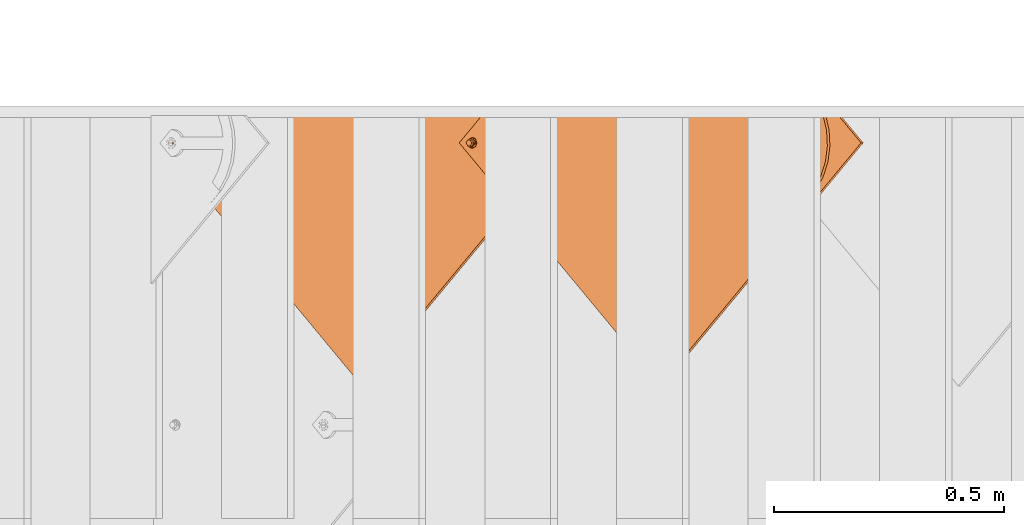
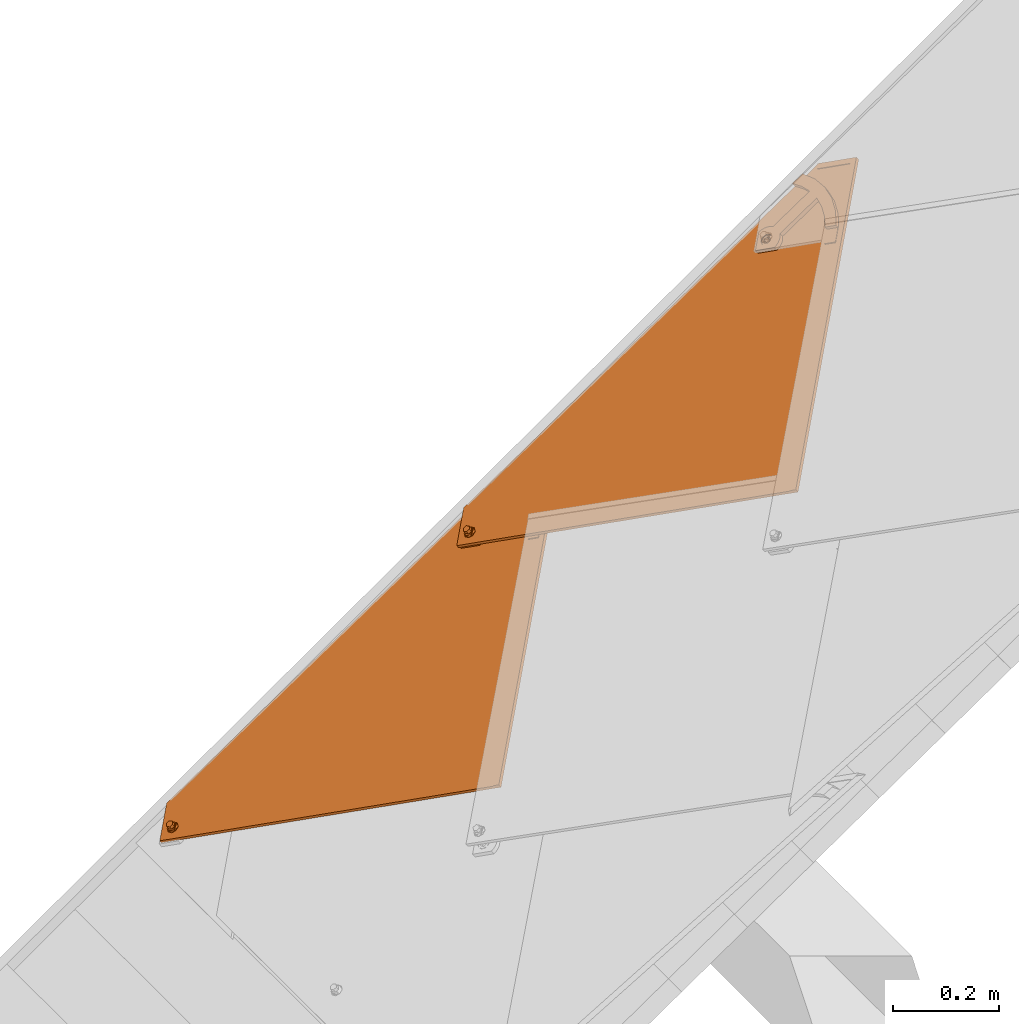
# One storey, part 90 of 151: 2 proxies.
"""IFC2X3 building model written with IfcOpenShell, lengths in millimetres."""

from ifc_helpers import new_model, entity, si_unit, converted_unit, derived_unit, direction, frame, origin, place, context, subcontext, project, spatial, faceted_brep, source, transform, mapped, material, material_list, type_object, type_shapes, element, save


model = new_model("IFC2X3")

# Units and contexts
model_context = context("Model", 3, precision=0.01, world=origin(), true_north=direction((6.12303176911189e-17, 1.0)))
body_context = subcontext(model_context, "Body", "Model", "MODEL_VIEW")
ifc_project = project(units=[si_unit("LENGTHUNIT", "METRE", prefix="MILLI"), si_unit("AREAUNIT", "SQUARE_METRE"), si_unit("VOLUMEUNIT", "CUBIC_METRE"), converted_unit("PLANEANGLEUNIT", "DEGREE", entity("IfcRatioMeasure", 0.0174532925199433), si_unit("PLANEANGLEUNIT", "RADIAN"), dimensions=[0, 0, 0, 0, 0, 0, 0]), si_unit("MASSUNIT", "GRAM", prefix="KILO"), derived_unit("MASSDENSITYUNIT", [(si_unit("MASSUNIT", "GRAM", prefix="KILO"), 1), (si_unit("LENGTHUNIT", "METRE"), -3)]), si_unit("TIMEUNIT", "SECOND"), si_unit("FREQUENCYUNIT", "HERTZ"), si_unit("THERMODYNAMICTEMPERATUREUNIT", "DEGREE_CELSIUS"), derived_unit("THERMALTRANSMITTANCEUNIT", [(si_unit("MASSUNIT", "GRAM", prefix="KILO"), 1), (si_unit("THERMODYNAMICTEMPERATUREUNIT", "KELVIN"), -1), (si_unit("TIMEUNIT", "SECOND"), -3)]), derived_unit("VOLUMETRICFLOWRATEUNIT", [(si_unit("LENGTHUNIT", "METRE"), 3), (si_unit("TIMEUNIT", "SECOND"), -1)]), si_unit("ELECTRICCURRENTUNIT", "AMPERE"), si_unit("ELECTRICVOLTAGEUNIT", "VOLT"), si_unit("POWERUNIT", "WATT"), si_unit("FORCEUNIT", "NEWTON", prefix="KILO"), si_unit("ILLUMINANCEUNIT", "LUX"), si_unit("LUMINOUSFLUXUNIT", "LUMEN"), si_unit("LUMINOUSINTENSITYUNIT", "CANDELA"), derived_unit("USERDEFINED", [(si_unit("MASSUNIT", "GRAM", prefix="KILO"), -1), (si_unit("LENGTHUNIT", "METRE"), -2), (si_unit("TIMEUNIT", "SECOND"), 3), (si_unit("LUMINOUSFLUXUNIT", "LUMEN"), 1)]), derived_unit("LINEARVELOCITYUNIT", [(si_unit("LENGTHUNIT", "METRE"), 1), (si_unit("TIMEUNIT", "SECOND"), -1)]), si_unit("PRESSUREUNIT", "PASCAL"), derived_unit("USERDEFINED", [(si_unit("LENGTHUNIT", "METRE"), -2), (si_unit("MASSUNIT", "GRAM", prefix="KILO"), 1), (si_unit("TIMEUNIT", "SECOND"), -2)])], contexts=[model_context])

# Site, building, storey
site_placement = place(None, origin())
site = spatial("IfcSite", under=ifc_project, at=site_placement, Name="Default", CompositionType="ELEMENT")
building_placement = place(site_placement, origin())
building = spatial("IfcBuilding", under=site, at=building_placement, CompositionType="ELEMENT")
storey_placement = place(building_placement, origin())
storey = spatial("IfcBuildingStorey", under=building, at=storey_placement, Name="Level 1", CompositionType="ELEMENT", Elevation=0.0)

# Proxies
ifc_material_1 = material(Name="Rubber - Sunstyle - Black")
ifc_material_2 = material(Name="Glass - Sunstyle - Tainted Black")
ifc_material_list_1 = material_list([ifc_material_1, ifc_material_2])
ifc_material_list_2 = material_list([ifc_material_1, ifc_material_2])
building_element_proxy_type = type_object("IfcBuildingElementProxyType", Name="Shingle Left - Black", PredefinedType="NOTDEFINED", material=ifc_material_list_2)
shared_shape = source(origin(), body_context, "Body", "Brep", [
    faceted_brep([(0.0, -484.792260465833, 4.00636906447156), (-5.77420283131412, -488.125530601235, 4.06219304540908), (-5.77420283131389, -487.757221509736, 26.0540623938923), (0.0, -484.423951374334, 25.9982384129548), (-5.77420283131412, -494.792070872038, 4.17384100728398), (-5.7742028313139, -494.42376178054, 26.1657103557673), (0.0, -498.12534100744, 4.22966498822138), (0.0, -497.757031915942, 26.2215343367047), (5.77420283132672, -494.792070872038, 4.17384100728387), (5.77420283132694, -494.42376178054, 26.1657103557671), (5.77420283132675, -488.125530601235, 4.06219304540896), (5.77420283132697, -487.757221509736, 26.0540623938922), (-8.60370416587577, -499.692989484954, 26.2539568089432), (0.0, -503.256260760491, 26.3136327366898), (-12.1674751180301, -491.090491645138, 26.1098863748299), (-8.60370416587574, -482.487993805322, 25.9658159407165), (0.0, -478.924722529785, 25.9061400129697), (8.60370416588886, -482.487993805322, 25.9658159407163), (12.1674751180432, -491.090491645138, 26.1098863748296), (8.60370416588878, -499.692989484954, 26.253956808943), (-11.324244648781, -488.795414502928, 28.4227283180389), (-9.75647455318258, -491.019476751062, 30.3502110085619), (0.0, -483.706401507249, 30.9829114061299), (0.0, -482.465903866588, 30.4025647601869), (0.0, -480.308353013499, 29.3931896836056), (0.0, -502.700216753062, 27.5886907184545), (0.0, -501.756640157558, 29.7523951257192), (0.0, -498.307264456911, 31.2274395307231), (0.0, -479.437758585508, 27.1991024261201), (-6.32324569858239, -494.657048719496, 31.1663074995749), (-6.32324569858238, -487.356617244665, 31.0440434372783), (11.3242446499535, -493.306834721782, 28.498283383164), (9.84888015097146, -492.093883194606, 30.2713428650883), (6.32324569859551, -487.356617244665, 31.0440434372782), (6.32324569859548, -494.657048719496, 31.1663074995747), (-6.32324569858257, -494.523020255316, 39.1691956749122), (0.0, -498.173235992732, 39.2303277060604), (0.0, -490.8728045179, 39.1080636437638), (-6.32324569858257, -487.222588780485, 39.0469316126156), (6.32324569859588, -494.523020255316, 39.1691956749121), (6.32324569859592, -487.222588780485, 39.0469316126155), (0.0, -483.572373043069, 38.9857995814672), (0.0, -491.458800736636, 4.11801702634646)], [[[0, 1, 2, 3]], [[1, 4, 5, 2]], [[4, 6, 7, 5]], [[6, 8, 9, 7]], [[8, 10, 11, 9]], [[10, 0, 3, 11]], [[12, 7, 13]], [[7, 12, 5]], [[14, 5, 12]], [[5, 14, 2]], [[15, 2, 14]], [[3, 2, 15]], [[15, 16, 3]], [[16, 17, 3]], [[11, 3, 17]], [[11, 17, 18]], [[9, 11, 18]], [[18, 19, 9]], [[7, 9, 19]], [[19, 13, 7]], [[20, 14, 12]], [[21, 22, 23, 24]], [[24, 20, 21]], [[25, 20, 12]], [[26, 27, 21]], [[15, 14, 20]], [[12, 13, 25]], [[20, 28, 15]], [[28, 20, 24]], [[21, 27, 29]], [[21, 29, 30]], [[26, 21, 20]], [[20, 25, 26]], [[15, 28, 16]], [[21, 30, 22]], [[31, 18, 17]], [[28, 31, 17]], [[32, 27, 26]], [[26, 31, 32]], [[26, 25, 31]], [[25, 19, 31]], [[17, 16, 28]], [[31, 19, 18]], [[24, 31, 28]], [[33, 34, 32]], [[23, 22, 33]], [[24, 32, 31]], [[27, 32, 34]], [[32, 23, 33]], [[19, 25, 13]], [[32, 24, 23]], [[35, 36, 37]], [[37, 38, 35]], [[36, 39, 37]], [[40, 37, 39]], [[37, 40, 41]], [[37, 41, 38]], [[42, 6, 4]], [[4, 1, 42]], [[1, 0, 42]], [[42, 8, 6]], [[0, 10, 42]], [[8, 42, 10]], [[22, 30, 38, 41]], [[30, 29, 35, 38]], [[29, 27, 36, 35]], [[27, 34, 39, 36]], [[34, 33, 40, 39]], [[33, 22, 41, 40]]]),
    faceted_brep([(0.0, 284.339364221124, 20.2838091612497), (0.0, 288.838732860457, 20.2084559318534), (-8.60370416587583, 287.902635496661, 20.224133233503), (8.60370416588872, 287.902635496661, 20.2241332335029), (6.64022859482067, 292.671933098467, 20.1442593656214), (12.1674751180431, 296.505133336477, 20.0800627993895), (6.64022859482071, 300.338333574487, 20.0158662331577), (8.6037041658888, 305.107631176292, 19.9359923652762), (0.0, 304.171533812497, 19.9516696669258), (0.0, 308.670902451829, 19.8763164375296), (-8.60370416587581, 305.107631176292, 19.9359923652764), (-6.64022859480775, 300.338333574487, 20.0158662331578), (-12.1674751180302, 296.505133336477, 20.0800627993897), (-6.64022859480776, 292.671933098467, 20.1442593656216), (-6.64022823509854, 300.070410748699, 4.01810959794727), (0.0, 303.90361077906, 3.95391303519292), (-6.64022823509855, 292.404010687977, 4.14650272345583), (0.0, 288.570810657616, 4.21069928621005), (6.64022823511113, 292.404010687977, 4.1465027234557), (6.64022823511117, 300.070410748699, 4.01810959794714), (-8.603704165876, 287.634712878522, 4.22637659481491), (0.0, 284.071441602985, 4.28605252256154), (-12.1674751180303, 296.237210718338, 4.08230616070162), (-8.60370416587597, 304.839708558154, 3.93823572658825), (0.0, 308.402979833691, 3.87855979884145), (8.60370416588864, 304.839708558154, 3.93823572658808), (12.1674751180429, 296.237210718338, 4.08230616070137), (8.60370416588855, 287.634712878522, 4.22637659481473)], [[[0, 1, 2]], [[1, 0, 3]], [[3, 4, 1]], [[4, 3, 5]], [[6, 4, 5]], [[5, 7, 6]], [[7, 8, 6]], [[8, 7, 9]], [[8, 9, 10]], [[10, 11, 8]], [[12, 11, 10]], [[2, 13, 12]], [[12, 13, 11]], [[13, 2, 1]], [[8, 11, 14, 15]], [[11, 13, 16, 14]], [[13, 1, 17, 16]], [[1, 4, 18, 17]], [[4, 6, 19, 18]], [[6, 8, 15, 19]], [[20, 17, 21]], [[17, 20, 16]], [[22, 16, 20]], [[14, 16, 22]], [[23, 14, 22]], [[15, 14, 23]], [[23, 24, 15]], [[24, 25, 15]], [[19, 15, 25]], [[19, 25, 26]], [[26, 18, 19]], [[26, 27, 18]], [[17, 18, 27]], [[27, 21, 17]], [[24, 23, 10, 9]], [[10, 23, 22, 12]], [[20, 21, 0, 2]], [[20, 2, 12, 22]], [[21, 27, 3, 0]], [[3, 27, 26, 5]], [[25, 24, 9, 7]], [[25, 7, 5, 26]]]),
    faceted_brep([(518.309865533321, -8.21171787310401, 16.4411500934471), (526.794551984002, 0.272968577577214, 16.299052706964), (526.794551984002, 0.298086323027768, 17.798842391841), (518.309865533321, -8.18660012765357, 17.9409397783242), (0.0, 509.952813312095, 7.76318349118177), (-51.6190674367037, 458.348219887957, 8.62743202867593), (-60.1037538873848, 466.832906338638, 8.48533464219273), (0.0, 526.919807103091, 7.47902856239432), (0.0, 526.944924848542, 8.97881824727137), (-60.1037538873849, 466.858024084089, 9.98512432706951), (-51.6190674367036, 458.373337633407, 10.1272217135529), (0.0, 509.977931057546, 9.26297317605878)], [[[0, 1, 2, 3]], [[1, 0, 4, 5, 6, 7]], [[2, 1, 7, 8]], [[3, 2, 8, 9, 10, 11]], [[0, 3, 11, 4]], [[5, 10, 9, 6]], [[8, 7, 6, 9]], [[4, 11, 10, 5]]]),
    faceted_brep([(3.08877637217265, 308.328619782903, 11.1398870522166), (0.0, 526.91980710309, 7.47902856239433), (-60.1037538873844, 466.832906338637, 8.48533464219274), (5.98294783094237, 307.129982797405, 11.1599612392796), (-0.0170521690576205, 308.737452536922, 11.133040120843), (8.46822920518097, 305.223226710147, 11.1918946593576), (10.3752526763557, 302.738293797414, 11.2335111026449), (11.5740577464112, 299.844528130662, 11.2819744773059), (526.794551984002, 0.272968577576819, 16.299052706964), (11.9829478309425, 296.739135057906, 11.3339820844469), (11.5740577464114, 293.63374198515, 11.3859896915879), (10.3752526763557, 290.739976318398, 11.4344530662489), (8.46822920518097, 288.255043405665, 11.4760695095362), (5.9829478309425, 286.348287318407, 11.5080029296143), (3.08877637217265, 285.149650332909, 11.5280771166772), (2.03352718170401, -483.329519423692, 24.3981910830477), (-60.1037538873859, -466.286969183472, 24.112770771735), (-0.0170521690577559, 284.74081757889, 11.5349240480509), (-3.12288071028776, 285.149650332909, 11.5280771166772), (-6.01705216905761, 286.348287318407, 11.5080029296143), (-8.50233354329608, 288.255043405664, 11.4760695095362), (-10.409357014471, 290.739976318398, 11.4344530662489), (-11.6081620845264, 293.63374198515, 11.3859896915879), (-12.0170521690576, 296.739135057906, 11.3339820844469), (-11.6081620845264, 299.844528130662, 11.2819744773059), (-10.4093570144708, 302.738293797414, 11.2335111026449), (-8.50233354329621, 305.223226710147, 11.1918946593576), (-6.01705216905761, 307.129982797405, 11.1599612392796), (-3.12288071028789, 308.328619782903, 11.1398870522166), (-0.0370251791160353, -483.056964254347, 24.3936264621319), (-2.10757753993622, -483.329519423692, 24.3981910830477), (-4.03702517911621, -484.128610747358, 24.411573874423), (-5.69387942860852, -485.399781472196, 24.4328628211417), (-6.96522840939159, -487.056403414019, 24.4606071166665), (-7.76443178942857, -488.985580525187, 24.4929160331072), (-8.03702517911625, -491.055842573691, 24.5275877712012), (-7.76443178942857, -493.126104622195, 24.5622595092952), (-6.96522840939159, -495.055281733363, 24.5945684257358), (0.0, -526.373869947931, 25.1190768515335), (-5.69387942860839, -496.711903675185, 24.6223127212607), (-4.03702517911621, -497.983074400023, 24.6436016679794), (-2.10757753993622, -498.782165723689, 24.6569844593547), (-0.0370251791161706, -499.054720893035, 24.6615490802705), (2.03352718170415, -498.782165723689, 24.6569844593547), (3.96297482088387, -497.983074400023, 24.6436016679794), (5.61982907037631, -496.711903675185, 24.6223127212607), (6.89117805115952, -495.055281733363, 24.5945684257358), (7.6903814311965, -493.126104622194, 24.5622595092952), (3.96297482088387, -484.128610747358, 24.411573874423), (5.61982907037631, -485.399781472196, 24.4328628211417), (6.89117805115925, -487.056403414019, 24.4606071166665), (7.6903814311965, -488.985580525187, 24.4929160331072), (7.96297482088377, -491.055842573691, 24.5275877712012), (-60.1037538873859, -466.412557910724, 16.6138223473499), (-6.96522840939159, -487.181992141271, 16.9616586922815), (-7.7644317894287, -489.111169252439, 16.9939676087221), (-5.69387942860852, -485.525370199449, 16.9339143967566), (-8.03702517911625, -491.181431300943, 17.0286393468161), (-7.76443178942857, -493.251693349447, 17.0633110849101), (-6.96522840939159, -495.180870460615, 17.0956200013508), (0.0, -526.499458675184, 17.6201284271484), (-4.03702517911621, -484.254199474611, 16.9126254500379), (-2.10757753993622, -483.455108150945, 16.8992426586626), (-0.0370251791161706, -483.182552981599, 16.8946780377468), (2.03352718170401, -483.455108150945, 16.8992426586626), (3.08877637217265, 285.024061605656, 4.02912869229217), (-0.0170521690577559, 284.615228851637, 4.03597562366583), (-3.12288071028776, 285.024061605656, 4.02912869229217), (-6.01705216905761, 286.222698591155, 4.00905450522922), (-8.50233354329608, 288.129454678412, 3.97712108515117), (-10.409357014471, 290.614387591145, 3.93550464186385), (-11.6081620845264, 293.508153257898, 3.88704126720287), (-60.1037538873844, 466.707317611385, 0.986386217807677), (-12.0170521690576, 296.613546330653, 3.83503366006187), (-11.6081620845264, 299.718939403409, 3.78302605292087), (-10.4093570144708, 302.612705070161, 3.73456267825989), (-8.50233354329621, 305.097637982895, 3.69294623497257), (-6.01705216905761, 307.004394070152, 3.66101281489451), (-3.12288071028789, 308.203031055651, 3.64093862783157), (-0.0170521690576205, 308.61186380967, 3.63409169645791), (3.08877637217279, 308.203031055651, 3.64093862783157), (0.0, 526.794218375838, -0.0199198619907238), (5.98294783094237, 307.004394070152, 3.66101281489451), (8.46822920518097, 305.097637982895, 3.69294623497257), (10.3752526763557, 302.612705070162, 3.73456267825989), (11.5740577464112, 299.718939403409, 3.78302605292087), (526.794551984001, 0.147379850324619, 8.8001042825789), (3.96297482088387, -484.254199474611, 16.9126254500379), (5.61982907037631, -485.525370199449, 16.9339143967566), (7.6903814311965, -493.251693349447, 17.0633110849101), (7.96297482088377, -491.181431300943, 17.0286393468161), (7.6903814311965, -489.111169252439, 16.9939676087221), (6.89117805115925, -487.181992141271, 16.9616586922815), (5.9829478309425, 286.222698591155, 4.00905450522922), (8.46822920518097, 288.129454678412, 3.97712108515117), (11.9829478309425, 296.613546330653, 3.83503366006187), (11.5740577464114, 293.508153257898, 3.88704126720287), (10.3752526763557, 290.614387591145, 3.93550464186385), (-5.69387942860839, -496.837492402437, 17.1233642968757), (-4.03702517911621, -498.108663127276, 17.1446532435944), (-2.10757753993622, -498.907754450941, 17.1580360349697), (-0.0370251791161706, -499.180309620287, 17.1626006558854), (2.03352718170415, -498.907754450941, 17.1580360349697), (3.96297482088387, -498.108663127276, 17.1446532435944), (5.61982907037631, -496.837492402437, 17.1233642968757), (6.89117805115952, -495.180870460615, 17.0956200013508)], [[[0, 1, 2]], [[0, 3, 1]], [[4, 0, 2]], [[1, 3, 5]], [[6, 1, 5]], [[7, 1, 6]], [[7, 8, 1]], [[9, 8, 7]], [[8, 9, 10]], [[8, 10, 11]], [[11, 12, 8]], [[12, 13, 8]], [[13, 14, 8]], [[14, 15, 8]], [[14, 16, 15]], [[16, 14, 17]], [[16, 17, 18]], [[16, 18, 19]], [[20, 16, 19]], [[20, 21, 16]], [[21, 22, 16]], [[23, 2, 22]], [[2, 16, 22]], [[23, 24, 2]], [[25, 2, 24]], [[25, 26, 2]], [[26, 27, 2]], [[28, 2, 27]], [[4, 2, 28]], [[16, 29, 15]], [[29, 16, 30]], [[30, 16, 31]], [[16, 32, 31]], [[32, 16, 33]], [[33, 16, 34]], [[35, 34, 16]], [[35, 16, 36]], [[37, 36, 16]], [[16, 38, 37]], [[39, 37, 38]], [[40, 39, 38]], [[41, 40, 38]], [[38, 42, 41]], [[42, 38, 43]], [[44, 43, 38]], [[44, 38, 45]], [[46, 45, 38]], [[47, 46, 38]], [[47, 38, 8]], [[48, 8, 15]], [[48, 49, 8]], [[50, 8, 49]], [[51, 8, 50]], [[52, 47, 8]], [[52, 8, 51]], [[53, 54, 55]], [[54, 53, 56]], [[53, 55, 57]], [[57, 58, 53]], [[58, 59, 53]], [[53, 59, 60]], [[61, 56, 53]], [[62, 61, 53]], [[62, 53, 63]], [[64, 63, 53]], [[53, 65, 64]], [[65, 53, 66]], [[66, 53, 67]], [[67, 53, 68]], [[69, 68, 53]], [[70, 69, 53]], [[71, 70, 53]], [[71, 53, 72]], [[73, 71, 72]], [[74, 73, 72]], [[75, 74, 72]], [[76, 75, 72]], [[72, 77, 76]], [[78, 77, 72]], [[79, 78, 72]], [[79, 72, 80]], [[80, 72, 81]], [[82, 80, 81]], [[81, 83, 82]], [[83, 81, 84]], [[84, 81, 85]], [[86, 85, 81]], [[64, 86, 87]], [[88, 87, 86]], [[60, 89, 86]], [[90, 86, 89]], [[90, 91, 86]], [[91, 92, 86]], [[88, 86, 92]], [[65, 86, 64]], [[65, 93, 86]], [[93, 94, 86]], [[86, 95, 85]], [[95, 86, 96]], [[97, 96, 86]], [[97, 86, 94]], [[98, 60, 59]], [[98, 99, 60]], [[99, 100, 60]], [[101, 60, 100]], [[60, 101, 102]], [[60, 102, 103]], [[103, 104, 60]], [[104, 105, 60]], [[105, 89, 60]], [[2, 1, 81, 72]], [[38, 16, 53, 60]], [[8, 38, 60, 86]], [[1, 8, 86, 81]], [[35, 57, 55, 34]], [[34, 55, 54, 33]], [[31, 32, 56, 61]], [[56, 32, 33, 54]], [[30, 31, 61, 62]], [[30, 62, 63, 29]], [[29, 63, 64, 15]], [[15, 64, 87, 48]], [[50, 49, 88, 92]], [[88, 49, 48, 87]], [[51, 50, 92, 91]], [[51, 91, 90, 52]], [[52, 90, 89, 47]], [[47, 89, 105, 46]], [[44, 45, 104, 103]], [[104, 45, 46, 105]], [[43, 44, 103, 102]], [[43, 102, 101, 42]], [[42, 101, 100, 41]], [[41, 100, 99, 40]], [[37, 39, 98, 59]], [[98, 39, 40, 99]], [[36, 37, 59, 58]], [[36, 58, 57, 35]], [[23, 73, 74, 24]], [[24, 74, 75, 25]], [[27, 26, 76, 77]], [[76, 26, 25, 75]], [[28, 27, 77, 78]], [[28, 78, 79, 4]], [[4, 79, 80, 0]], [[0, 80, 82, 3]], [[6, 5, 83, 84]], [[83, 5, 3, 82]], [[7, 6, 84, 85]], [[7, 85, 95, 9]], [[9, 95, 96, 10]], [[10, 96, 97, 11]], [[13, 12, 94, 93]], [[94, 12, 11, 97]], [[14, 13, 93, 65]], [[14, 65, 66, 17]], [[17, 66, 67, 18]], [[18, 67, 68, 19]], [[21, 20, 69, 70]], [[69, 20, 19, 68]], [[22, 21, 70, 71]], [[22, 71, 73, 23]], [[16, 2, 72, 53]]]),
    faceted_brep([(-60.2957264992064, 433.002673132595, 19.0533091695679), (-60.2957264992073, 406.276440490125, 19.5009070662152), (-37.4519584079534, 414.732964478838, 19.3592813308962), (-27.2461400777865, 442.315205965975, 18.8973474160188), (-13.4919726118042, 419.124350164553, 19.2857365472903), (7.02526451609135, 444.434715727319, 18.8618509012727), (13.1080273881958, 419.12435016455, 19.2857365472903), (13.1080273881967, 322.716549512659, 20.9003273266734), (-13.4919726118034, 322.716549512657, 20.9003273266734), (-0.191972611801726, 308.510747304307, 21.1382391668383), (-3.29780115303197, 308.101914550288, 21.145086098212), (-6.19197261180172, 306.90327756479, 21.1651602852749), (-18.8960787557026, 319.178501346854, 20.9595808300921), (-8.67725398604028, 304.996521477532, 21.197093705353), (-23.3966230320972, 314.545495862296, 21.0371721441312), (-10.584277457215, 302.511588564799, 21.2387101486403), (-26.776192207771, 309.041345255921, 21.1293529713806), (-11.7830825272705, 299.617822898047, 21.2871735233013), (-28.8715253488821, 302.931945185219, 21.231670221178), (-12.1919726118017, 296.512429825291, 21.3391811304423), (-29.5814006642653, 296.512429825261, 21.3391811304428), (-11.7830825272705, 293.407036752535, 21.3911887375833), (-10.5842774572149, 290.513271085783, 21.4396521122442), (-8.67725398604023, 288.028338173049, 21.4812685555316), (-0.191972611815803, 267.127122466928, 21.8313119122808), (-6.19197261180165, 286.121582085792, 21.5132019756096), (-3.2978011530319, 284.922945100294, 21.5332761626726), (-0.19197261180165, 284.514112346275, 21.5401230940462), (2.9138559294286, 284.922945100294, 21.5332761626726), (5.80802738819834, 286.121582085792, 21.5132019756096), (8.29330876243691, 288.028338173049, 21.4812685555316), (29.197455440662, 296.512429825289, 21.3391811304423), (10.2003322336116, 290.513271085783, 21.4396521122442), (11.3991373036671, 293.407036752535, 21.3911887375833), (11.8080273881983, 296.512429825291, 21.3391811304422), (28.4875801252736, 302.931945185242, 21.2316702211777), (11.3991373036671, 299.617822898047, 21.2871735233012), (26.3922469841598, 309.041345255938, 21.1293529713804), (10.2003322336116, 302.511588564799, 21.2387101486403), (23.0126778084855, 314.545495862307, 21.037172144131), (8.29330876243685, 304.996521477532, 21.197093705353), (18.5121335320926, 319.178501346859, 20.959580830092), (5.80802738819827, 306.90327756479, 21.1651602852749), (2.91385592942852, 308.101914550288, 21.145086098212), (40.9707248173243, 439.265481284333, 18.9484227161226), (38.5777701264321, 414.309469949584, 19.3663738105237), (73.0571986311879, 427.0409551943, 19.1531531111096), (62.7323605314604, 404.905836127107, 19.523861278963), (84.7524233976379, 391.232440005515, 19.7528566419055), (101.835599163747, 408.313220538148, 19.4667960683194), (-10.5842774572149, 290.345819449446, 11.4410542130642), (-29.5814006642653, 296.344978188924, 11.3405832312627), (-11.7830825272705, 293.239585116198, 11.3925908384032), (-8.67725398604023, 287.860886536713, 11.4826706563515), (-0.191972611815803, 266.959670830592, 11.8327140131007), (-6.19197261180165, 285.954130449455, 11.5146040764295), (-3.2978011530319, 284.755493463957, 11.5346782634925), (-0.19197261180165, 284.346660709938, 11.5415251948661), (2.9138559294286, 284.755493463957, 11.5346782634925), (5.80802738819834, 285.954130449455, 11.5146040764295), (8.29330876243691, 287.860886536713, 11.4826706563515), (29.197455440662, 296.344978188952, 11.3405832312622), (10.2003322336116, 290.345819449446, 11.4410542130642), (11.3991373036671, 293.239585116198, 11.3925908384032), (11.8080273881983, 296.344978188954, 11.3405832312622), (28.4875801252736, 302.764493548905, 11.2330723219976), (11.3991373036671, 299.45037126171, 11.2885756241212), (26.3922469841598, 308.873893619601, 11.1307550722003), (10.2003322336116, 302.344136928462, 11.2401122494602), (23.0126778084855, 314.378044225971, 11.038574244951), (8.29330876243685, 304.829069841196, 11.1984958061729), (18.5121335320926, 319.011049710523, 10.960982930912), (5.80802738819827, 306.735825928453, 11.1665623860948), (13.1080273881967, 322.549097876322, 10.9017294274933), (2.91385592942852, 307.934462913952, 11.1464881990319), (-0.191972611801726, 308.34329566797, 11.1396412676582), (-13.4919726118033, 322.54909787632, 10.9017294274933), (-3.29780115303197, 307.934462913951, 11.1464881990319), (-6.19197261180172, 306.735825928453, 11.1665623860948), (-18.8960787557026, 319.011049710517, 10.9609829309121), (-8.67725398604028, 304.829069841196, 11.1984958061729), (-23.3966230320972, 314.37804422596, 11.0385742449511), (-10.584277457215, 302.344136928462, 11.2401122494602), (-26.776192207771, 308.873893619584, 11.1307550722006), (-11.7830825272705, 299.45037126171, 11.2885756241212), (-28.8715253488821, 302.764493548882, 11.233072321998), (-12.1919726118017, 296.344978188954, 11.3405832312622), (-13.4919726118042, 418.956898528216, 9.28713864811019), (13.1080273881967, 418.956898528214, 9.28713864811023), (7.02526451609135, 444.267264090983, 8.86325300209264), (-27.2461400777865, 442.147754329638, 8.89874951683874), (-37.4519584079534, 414.565512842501, 9.36068343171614), (-60.2957264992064, 432.835221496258, 9.05471127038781), (-60.2957264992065, 406.108988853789, 9.5023091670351), (40.9707248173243, 439.098029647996, 8.94982481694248), (38.5777701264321, 414.142018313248, 9.36777591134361), (73.0571986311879, 426.873503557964, 9.15455521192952), (62.7323605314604, 404.738384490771, 9.5252633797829), (84.9699227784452, 391.282457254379, 9.75061668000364), (101.363550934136, 407.672574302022, 9.47612300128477), (101.835599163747, 408.145768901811, 9.46819816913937), (107.666988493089, 402.274283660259, 9.56653093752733), (113.684870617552, 396.559480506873, 9.66223967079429), (108.027097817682, 368.228515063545, 10.1367128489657), (125.024248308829, 385.223282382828, 9.85209278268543), (84.7524233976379, 391.064988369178, 9.75425874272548), (125.024248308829, 385.265145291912, 12.3517422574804), (113.684870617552, 396.601343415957, 12.1618891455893), (107.666988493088, 402.316146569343, 12.0661804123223), (101.362944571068, 407.715043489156, 11.975762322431), (84.9693798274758, 391.324863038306, 12.2502570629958), (108.027097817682, 368.270377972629, 12.6363623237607)], [[[0, 1, 2]], [[0, 2, 3]], [[2, 4, 3]], [[3, 4, 5]], [[5, 4, 6]], [[7, 6, 4]], [[7, 4, 8]], [[9, 7, 8]], [[9, 8, 10]], [[10, 8, 11]], [[12, 11, 8]], [[11, 12, 13]], [[14, 13, 12]], [[13, 14, 15]], [[15, 14, 16]], [[17, 15, 16]], [[18, 17, 16]], [[18, 19, 17]], [[19, 18, 20]], [[20, 21, 19]], [[20, 22, 21]], [[22, 20, 23]], [[23, 20, 24]], [[24, 25, 23]], [[26, 25, 24]], [[24, 27, 26]], [[28, 27, 24]], [[28, 24, 29]], [[30, 29, 24]], [[30, 24, 31]], [[31, 32, 30]], [[33, 32, 31]], [[31, 34, 33]], [[35, 34, 31]], [[34, 35, 36]], [[36, 35, 37]], [[36, 37, 38]], [[38, 37, 39]], [[39, 40, 38]], [[39, 41, 40]], [[7, 42, 41]], [[40, 41, 42]], [[42, 7, 43]], [[43, 7, 9]], [[44, 5, 6]], [[44, 6, 45]], [[45, 46, 44]], [[46, 45, 47]], [[47, 48, 46]], [[49, 46, 48]], [[50, 51, 52]], [[51, 50, 53]], [[54, 51, 53]], [[53, 55, 54]], [[56, 54, 55]], [[57, 54, 56]], [[57, 58, 54]], [[58, 59, 54]], [[60, 54, 59]], [[60, 61, 54]], [[60, 62, 61]], [[62, 63, 61]], [[63, 64, 61]], [[64, 65, 61]], [[65, 64, 66]], [[66, 67, 65]], [[68, 67, 66]], [[67, 68, 69]], [[69, 68, 70]], [[71, 69, 70]], [[71, 70, 72]], [[72, 73, 71]], [[72, 74, 73]], [[75, 73, 74]], [[76, 73, 75]], [[77, 76, 75]], [[76, 77, 78]], [[79, 76, 78]], [[78, 80, 79]], [[81, 79, 80]], [[81, 80, 82]], [[81, 82, 83]], [[82, 84, 83]], [[84, 85, 83]], [[86, 85, 84]], [[52, 51, 86]], [[85, 86, 51]], [[73, 76, 87]], [[88, 73, 87]], [[88, 87, 89]], [[90, 89, 87]], [[87, 91, 90]], [[91, 92, 90]], [[93, 92, 91]], [[88, 89, 94]], [[88, 94, 95]], [[96, 95, 94]], [[96, 97, 95]], [[98, 97, 96]], [[96, 99, 98]], [[96, 100, 99]], [[98, 99, 101]], [[102, 98, 101]], [[98, 102, 103]], [[104, 103, 102]], [[105, 97, 98]], [[8, 4, 87, 76]], [[12, 8, 76, 79]], [[14, 12, 79, 81]], [[81, 83, 16, 14]], [[18, 16, 83, 85]], [[20, 18, 85, 51]], [[24, 20, 51, 54]], [[31, 24, 54, 61]], [[35, 31, 61, 65]], [[37, 35, 65, 67]], [[67, 69, 39, 37]], [[41, 39, 69, 71]], [[7, 41, 71, 73]], [[6, 7, 73, 88]], [[46, 49, 100, 96]], [[44, 46, 96, 94]], [[94, 89, 5, 44]], [[3, 5, 89, 90]], [[3, 90, 92, 0]], [[19, 86, 84, 17]], [[17, 84, 82, 15]], [[11, 13, 80, 78]], [[82, 80, 13, 15]], [[10, 11, 78, 77]], [[75, 9, 10, 77]], [[43, 74, 72, 42]], [[42, 72, 70, 40]], [[36, 38, 68, 66]], [[70, 68, 38, 40]], [[34, 36, 66, 64]], [[43, 9, 75, 74]], [[34, 64, 63, 33]], [[33, 63, 62, 32]], [[29, 30, 60, 59]], [[62, 60, 30, 32]], [[28, 29, 59, 58]], [[57, 27, 28, 58]], [[26, 56, 55, 25]], [[25, 55, 53, 23]], [[21, 22, 50, 52]], [[53, 50, 22, 23]], [[19, 21, 52, 86]], [[26, 27, 57, 56]], [[106, 107, 108, 109, 110, 111]], [[107, 106, 104, 102]], [[106, 111, 103, 104]], [[107, 102, 101, 108]], [[101, 99, 109]], [[101, 109, 108]], [[111, 110, 98, 103]], [[48, 110, 109]], [[110, 48, 105]], [[49, 48, 109, 100]], [[105, 98, 110]], [[99, 100, 109]], [[93, 91, 2, 1]], [[87, 4, 2, 91]], [[88, 95, 45, 6]], [[95, 97, 47, 45]], [[97, 105, 48, 47]], [[1, 0, 92, 93]]]),
])
type_shapes(building_element_proxy_type, [shared_shape])
proxy_1_placement = place(storey_placement, frame((-1216.41808407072, 3870.91656638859, 1093.52512411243), z_axis=(-0.57357643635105, 0.0, 0.819152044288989), x_axis=(0.0, -1.0, 0.0)))
element("IfcBuildingElementProxy", 1, at=proxy_1_placement, inside=storey, type_object=building_element_proxy_type, material=ifc_material_list_1, Name="Roofing_Panels_SunStyle_Tile_Shingle-Left:Shingle Left - Black", ObjectType="Roofing_Panels_SunStyle_Tile_Shingle-Left:Shingle Left - Black", context=body_context, shape_type="MappedRepresentation", body=[
    mapped(shared_shape, transform((0.0, 0.0, 0.0), scale=1.0)),
])
ifc_material_list_3 = material_list([ifc_material_1, ifc_material_2])
proxy_2_placement = place(storey_placement, frame((-1864.51484461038, 3870.68491563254, 639.722886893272), z_axis=(-0.57357643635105, 0.0, 0.819152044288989), x_axis=(0.0, -1.0, 0.0)))
element("IfcBuildingElementProxy", 2, at=proxy_2_placement, inside=storey, type_object=building_element_proxy_type, material=ifc_material_list_3, Name="Roofing_Panels_SunStyle_Tile_Shingle-Left:Shingle Left - Black", ObjectType="Roofing_Panels_SunStyle_Tile_Shingle-Left:Shingle Left - Black", context=body_context, shape_type="MappedRepresentation", body=[
    mapped(shared_shape, transform((0.0, 0.0, 0.0), scale=1.0)),
])

save(model, "model.ifc")
